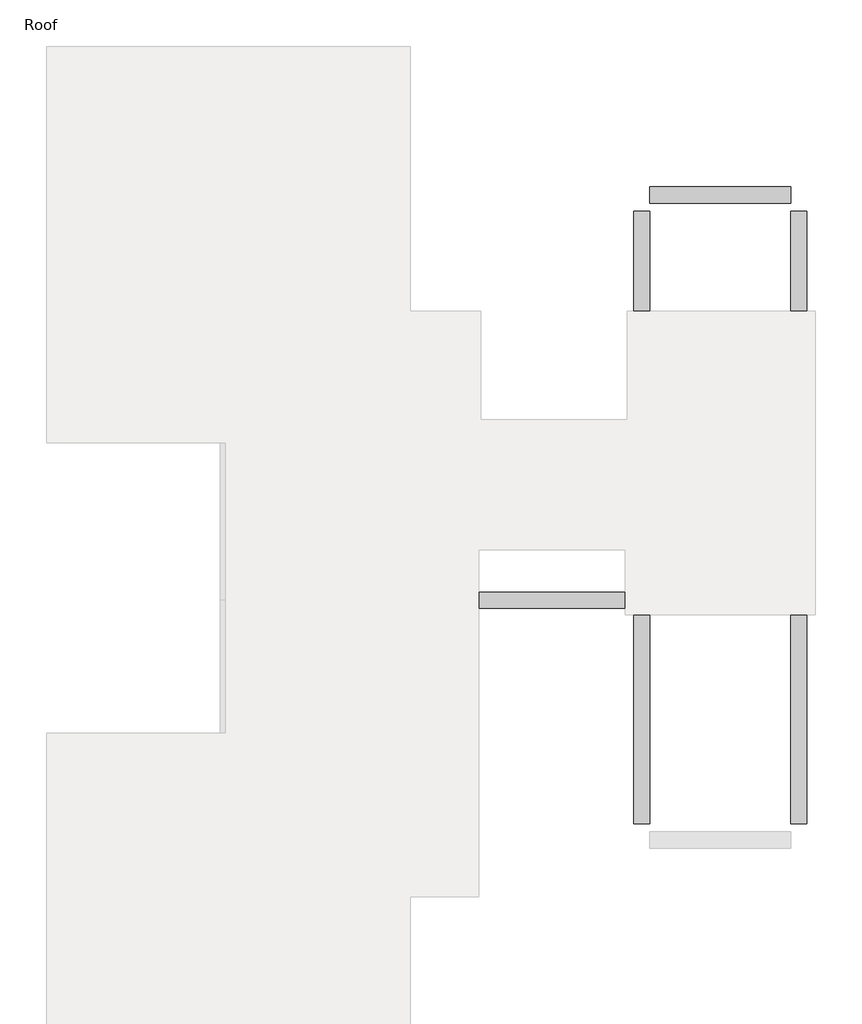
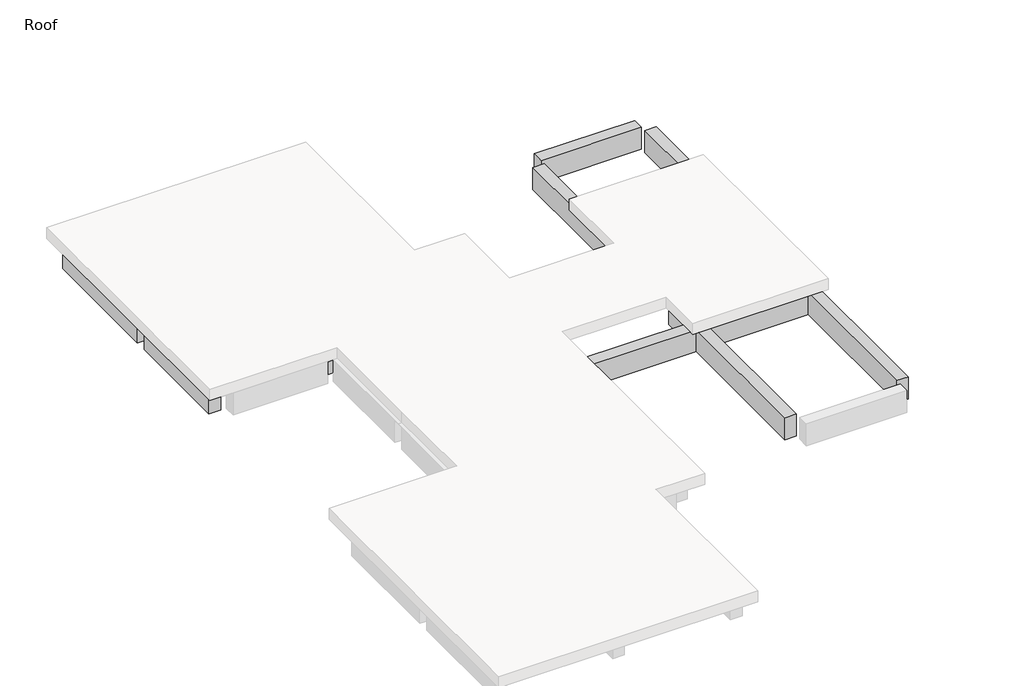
# One storey, part 2 of 2: 26 beams.
"""IFC4 building model written with IfcOpenShell, lengths in millimetres."""

import ifcopenshell
import ifcopenshell.guid

model = None  # the IFC model being written
_history = None  # IfcOwnerHistory: only IFC2X3 demands one
_inside = {}  # id of a spatial element -> (the spatial element, [elements in it])
_under = {}  # id of a project, library or spatial element -> (it, [spatial elements below it])
_declared = {}  # id of a project -> (the project, [libraries it declares])
_typed = {}  # id of a type object -> (the type object, [elements of that type])
_made_of = {}  # id of a material, layer set ... -> (it, [elements and type objects made of it])


def new_model(schema):
    """Start an empty IFC model of exactly this schema.

    Asked for "IFC4X3", IfcOpenShell would pick the latest addendum, in which some entities
    have other attributes; the version numbers below select the first issue.
    IFC2X3 requires an IfcOwnerHistory on every rooted entity: one is made here for all.
    """
    global model, _history
    if schema == "IFC4X3":
        model = ifcopenshell.file(schema_version=(4, 3, 0, 0))
    else:
        model = ifcopenshell.file(schema=schema)
    _inside.clear()
    _under.clear()
    _declared.clear()
    _typed.clear()
    _made_of.clear()
    _history = None
    if model.schema == "IFC2X3":
        org = make("IfcOrganization", Name="unknown")
        user = make(
            "IfcPersonAndOrganization",
            ThePerson=make("IfcPerson", FamilyName="unknown"),
            TheOrganization=org,
        )
        app = make(
            "IfcApplication",
            ApplicationDeveloper=org,
            Version="unknown",
            ApplicationFullName="unknown",
            ApplicationIdentifier="unknown",
        )
        _history = make(
            "IfcOwnerHistory",
            OwningUser=user,
            OwningApplication=app,
            ChangeAction="ADDED",
            CreationDate=0,
        )
    return model


def make(cls, **values):
    """One entity of the class cls with the attributes given. An attribute that is None is left unset."""
    return model.create_entity(
        cls, **{name: value for name, value in values.items() if value is not None}
    )


def rooted(cls, **values):
    """An entity with a GlobalId (a new one), such as an element, a storey or a relation."""
    return make(cls, GlobalId=ifcopenshell.guid.new(), OwnerHistory=_history, **values)


def si_unit(unit_type, name, prefix=None):
    """IfcSIUnit, for example si_unit("LENGTHUNIT", "METRE", prefix="MILLI")."""
    return make("IfcSIUnit", UnitType=unit_type, Prefix=prefix, Name=name)


def assignment(units):
    """IfcUnitAssignment: the units of a project."""
    return None if units is None else make("IfcUnitAssignment", Units=units)


def point(xyz):
    """IfcCartesianPoint."""
    return None if xyz is None else make("IfcCartesianPoint", Coordinates=xyz)


def direction(xyz):
    """IfcDirection."""
    return None if xyz is None else make("IfcDirection", DirectionRatios=xyz)


def frame(location, z_axis=None, x_axis=None):
    """IfcAxis2Placement3D, a coordinate frame: its origin and axes. An axis left out is left unset."""
    return make(
        "IfcAxis2Placement3D",
        Location=point(location),
        Axis=direction(z_axis),
        RefDirection=direction(x_axis),
    )


def origin():
    """The frame at (0, 0, 0) with its axes left unset."""
    return frame((0.0, 0.0, 0.0))


def place(relative_to, where):
    """IfcLocalPlacement: puts the frame where relative to a parent placement (None: the world)."""
    return make(
        "IfcLocalPlacement", PlacementRelTo=relative_to, RelativePlacement=where
    )


def context(
    kind, dimensions, precision=None, world=None, true_north=None, identifier=None
):
    """IfcGeometricRepresentationContext, for example the 3D "Model" context."""
    return make(
        "IfcGeometricRepresentationContext",
        ContextIdentifier=identifier,
        ContextType=kind,
        CoordinateSpaceDimension=dimensions,
        Precision=precision,
        WorldCoordinateSystem=world,
        TrueNorth=true_north,
    )


def project(units=None, contexts=None):
    """IfcProject with its units and contexts."""
    return rooted(
        "IfcProject",
        Name="project",
        RepresentationContexts=contexts,
        UnitsInContext=assignment(units),
    )


def spatial(cls, under=None, at=None, **own):
    """A site, building, storey or space (cls), placed at a placement, below another one or the project."""
    s = rooted(cls, ObjectPlacement=at, **own)
    if under is not None:
        _under.setdefault(under.id(), (under, []))[1].append(s)
    return s


def polyline(points):
    """IfcPolyline through the points."""
    return make("IfcPolyline", Points=[point(p) for p in points])


def outline(outer, holes=None, kind="AREA"):
    """IfcArbitraryClosedProfileDef: a profile drawn as a closed curve; with holes, ...WithVoids."""
    if holes is None:
        return make("IfcArbitraryClosedProfileDef", ProfileType=kind, OuterCurve=outer)
    return make(
        "IfcArbitraryProfileDefWithVoids",
        ProfileType=kind,
        OuterCurve=outer,
        InnerCurves=holes,
    )


def extrude(swept, where, along, depth):
    """IfcExtrudedAreaSolid: the profile swept, set in the frame where, extruded along a direction by depth."""
    return make(
        "IfcExtrudedAreaSolid",
        SweptArea=swept,
        Position=where,
        ExtrudedDirection=direction(along),
        Depth=depth,
    )


def faces_of(points, faces, orient=None, outer=None):
    """IfcFace entities. A face is a list of loops; a loop is a list of indices into points, from 0.

    orient and outer hold one flag for each loop. By default every Orientation is true, the
    first loop of a face is its IfcFaceOuterBound and the others are IfcFaceBound.
    """
    made = []
    for i, loops in enumerate(faces):
        bounds = []
        for j, loop in enumerate(loops):
            is_outer = j == 0 if outer is None else outer[i][j]
            bounds.append(
                make(
                    "IfcFaceOuterBound" if is_outer else "IfcFaceBound",
                    Bound=make("IfcPolyLoop", Polygon=[points[k] for k in loop]),
                    Orientation=True if orient is None else orient[i][j],
                )
            )
        made.append(make("IfcFace", Bounds=bounds))
    return made


def faceted_brep(points, faces, orient=None, outer=None, voids=None):
    """IfcFacetedBrep: a solid bounded by flat faces; with voids (closed shells), ...WithVoids."""
    shared = [point(p) for p in points]
    hull = make("IfcClosedShell", CfsFaces=faces_of(shared, faces, orient, outer))
    if voids is None:
        return make("IfcFacetedBrep", Outer=hull)
    return make(
        "IfcFacetedBrepWithVoids",
        Outer=hull,
        Voids=[
            make(cls, CfsFaces=faces_of(shared, fs, o, b)) for cls, fs, o, b in voids
        ],
    )


def shape(context_of_items, identifier, shape_type, items):
    """IfcShapeRepresentation: the items that make up one representation, for example the "Body"."""
    return make(
        "IfcShapeRepresentation",
        ContextOfItems=context_of_items,
        RepresentationIdentifier=identifier,
        RepresentationType=shape_type,
        Items=items,
    )


def made_of(thing, what):
    """Note that an element or type object is made of a material, layer set ...; save() writes the relation."""
    if what is not None:
        _made_of.setdefault(what.id(), (what, []))[1].append(thing)
    return thing


def element(
    cls,
    number,
    at=None,
    inside=None,
    cuts=None,
    type_object=None,
    material=None,
    context=None,
    identifier="Body",
    shape_type=None,
    held_by="IfcProductDefinitionShape",
    body=None,
    shapes=None,
    **own,
):
    """One element of the class cls, such as IfcWall. Its Tag is "e" and its number.

    at: its placement. inside: the storey or other place that contains it. cuts: it is an
    opening in that element (IfcRelVoidsElement). A single representation is given by context,
    identifier, shape_type and body (its items); several are given by shapes. held_by: the class
    of the entity that holds the representations. save() writes the other relations.
    """
    e = rooted(cls, Tag="e%d" % number, ObjectPlacement=at, **own)
    if body is not None:
        shapes = [shape(context, identifier, shape_type, body)]
    if shapes is not None:
        e.Representation = make(held_by, Representations=shapes)
    if inside is not None:
        _inside.setdefault(inside.id(), (inside, []))[1].append(e)
    if cuts is not None:
        rooted(
            "IfcRelVoidsElement", RelatingBuildingElement=cuts, RelatedOpeningElement=e
        )
    if type_object is not None:
        _typed.setdefault(type_object.id(), (type_object, []))[1].append(e)
    return made_of(e, material)


def aggregate(whole, parts):
    """IfcRelAggregates: a whole, such as a stair, and the parts it consists of."""
    return rooted("IfcRelAggregates", RelatingObject=whole, RelatedObjects=parts)


def save(model, path):
    """Write the relations noted so far, then the file.

    IfcRelAggregates (storeys below a building ...), IfcRelContainedInSpatialStructure (elements
    in a storey), IfcRelDefinesByType, IfcRelAssociatesMaterial and IfcRelDeclares: one each for
    every whole, place, type object, material and project.
    """
    for whole, parts in _under.values():
        aggregate(whole, parts)
    for where, things in _inside.values():
        rooted(
            "IfcRelContainedInSpatialStructure",
            RelatedElements=things,
            RelatingStructure=where,
        )
    for kind, things in _typed.values():
        rooted("IfcRelDefinesByType", RelatedObjects=things, RelatingType=kind)
    for what, things in _made_of.values():
        rooted("IfcRelAssociatesMaterial", RelatedObjects=things, RelatingMaterial=what)
    for by, libraries in _declared.values():
        rooted("IfcRelDeclares", RelatingContext=by, RelatedDefinitions=libraries)
    model.write(path)


model = new_model("IFC4")

# Units and contexts
model_context = context("Model", 3, world=origin())
ifc_project = project(units=[si_unit("LENGTHUNIT", "METRE", prefix="MILLI")], contexts=[model_context])

# Site, building, storey
site = spatial("IfcSite", under=ifc_project)
building = spatial("IfcBuilding", under=site)
storey = spatial("IfcBuildingStorey", under=building, Name="Roof", Elevation=7620.0)

# Beams
placement = place(None, origin())
element("IfcBeam", 1, ObjectType="M_Concrete-Rectangular Beam : 300 x 600mm", at=placement, inside=storey, context=model_context, shape_type="Brep", body=[
    faceted_brep([(-9783.3472303, 14876.016665, 7320.0), (-12831.3472303, 14876.016665, 7320.0), (-12831.3472303, 14726.016665, 7320.0), (-12831.3472303, 14576.016665, 7320.0), (-12681.3472303, 14576.016665, 7320.0), (-9933.3472303, 14576.016665, 7320.0), (-9783.3472303, 14576.016665, 7320.0), (-9783.3472303, 14726.016665, 7320.0), (-12831.3472303, 14576.016665, 7315.2), (-12531.3472303, 14576.016665, 7315.2), (-12531.3472303, 14576.016665, 6720.0), (-10083.3472303, 14576.016665, 6720.0), (-10083.3472303, 14576.016665, 7315.2), (-9783.3472303, 14576.016665, 7315.2), (-12531.3472303, 14876.016665, 6720.0), (-10083.3472303, 14876.016665, 6720.0), (-9783.3472303, 14876.016665, 7315.2), (-10083.3472303, 14876.016665, 7315.2), (-12531.3472303, 14876.016665, 7315.2), (-12831.3472303, 14876.016665, 7315.2), (-12831.3472303, 14726.016665, 7315.2), (-9783.3472303, 14726.016665, 7315.2)], [[[0, 1, 2, 3, 4, 5, 6, 7]], [[6, 5, 4, 3, 8, 9, 10, 11, 12, 13]], [[10, 14, 15, 11]], [[1, 0, 16, 17, 15, 14, 18, 19]], [[9, 18, 14, 10]], [[18, 9, 8, 20, 19]], [[17, 12, 11, 15]], [[12, 17, 16, 21, 13]], [[3, 2, 1, 19, 20, 8]], [[0, 7, 6, 13, 21, 16]]]),
])
element("IfcBeam", 2, ObjectType="M_Concrete-Rectangular Beam : 300 x 600mm", at=placement, inside=storey, context=model_context, shape_type="Brep", body=[
    faceted_brep([(-6735.3472303, 14876.016665, 7320.0), (-9783.3472303, 14876.016665, 7320.0), (-9783.3472303, 14726.016665, 7320.0), (-9633.3472303, 14726.016665, 7320.0), (-9633.3472303, 14576.016665, 7320.0), (-6885.3472303, 14576.016665, 7320.0), (-6735.3472303, 14576.016665, 7320.0), (-6735.3472303, 14726.016665, 7320.0), (-9483.3472303, 14576.016665, 7315.2), (-9483.3472303, 14576.016665, 6720.0), (-7035.3472303, 14576.016665, 6720.0), (-7035.3472303, 14576.016665, 7315.2), (-6735.3472303, 14576.016665, 7315.2), (-9633.3472303, 14576.016665, 7315.2), (-9483.3472303, 14876.016665, 6720.0), (-7035.3472303, 14876.016665, 6720.0), (-6735.3472303, 14876.016665, 7315.2), (-7035.3472303, 14876.016665, 7315.2), (-9483.3472303, 14876.016665, 7315.2), (-9783.3472303, 14876.016665, 7315.2), (-9633.3472303, 14726.016665, 7315.2), (-9783.3472303, 14726.016665, 7315.2), (-6735.3472303, 14726.016665, 7315.2)], [[[0, 1, 2, 3, 4, 5, 6, 7]], [[8, 9, 10, 11, 12, 6, 5, 4, 13]], [[9, 14, 15, 10]], [[1, 0, 16, 17, 15, 14, 18, 19]], [[8, 18, 14, 9]], [[18, 8, 13, 20, 21, 19]], [[17, 11, 10, 15]], [[11, 17, 16, 22, 12]], [[3, 20, 13, 4]], [[1, 19, 21, 2]], [[0, 7, 6, 12, 22, 16]], [[20, 3, 2, 21]]]),
])
element("IfcBeam", 3, ObjectType="M_Concrete-Rectangular Beam : 300 x 600mm", at=placement, inside=storey, context=model_context, shape_type="Brep", body=[
    faceted_brep([(-6585.3472303, 11069.016665, 7320.0), (-6585.3472303, 14726.016665, 7320.0), (-6735.3472303, 14726.016665, 7320.0), (-6735.3472303, 14576.016665, 7320.0), (-6885.3472303, 14576.016665, 7320.0), (-6885.3472303, 11219.016665, 7320.0), (-6885.3472303, 11069.016665, 7320.0), (-6735.3472303, 11069.016665, 7320.0), (-6885.3472303, 14576.016665, 6720.0), (-6885.3472303, 11219.016665, 6720.0), (-6885.3472303, 11219.016665, 7315.2), (-6885.3472303, 11069.016665, 7315.2), (-6585.3472303, 14576.016665, 6720.0), (-6585.3472303, 11219.016665, 6720.0), (-6585.3472303, 11069.016665, 7315.2), (-6585.3472303, 11219.016665, 7315.2), (-6585.3472303, 14576.016665, 7315.2), (-6585.3472303, 14726.016665, 7315.2), (-6735.3472303, 14576.016665, 7315.2), (-6735.3472303, 14726.016665, 7315.2), (-6735.3472303, 11069.016665, 7315.2)], [[[0, 1, 2, 3, 4, 5, 6, 7]], [[6, 5, 4, 8, 9, 10, 11]], [[8, 12, 13, 9]], [[1, 0, 14, 15, 13, 12, 16, 17]], [[4, 3, 18, 16, 12, 8]], [[16, 18, 19, 17]], [[15, 10, 9, 13]], [[10, 15, 14, 20, 11]], [[2, 1, 17, 19]], [[0, 7, 6, 11, 20, 14]], [[3, 2, 19, 18]]]),
])
element("IfcBeam", 4, ObjectType="M_Concrete-Rectangular Beam : 300 x 600mm", at=placement, inside=storey, context=model_context, shape_type="Brep", body=[
    faceted_brep([(-6585.3472303, 9700.016665, 7320.0), (-6585.3472303, 10000.016665, 7320.0), (-6585.3472303, 11069.016665, 7320.0), (-6735.3472303, 11069.016665, 7320.0), (-6735.3472303, 10919.016665, 7320.0), (-6885.3472303, 10919.016665, 7320.0), (-6885.3472303, 9700.016665, 7320.0), (-6885.3472303, 9700.016665, 6720.0), (-6885.3472303, 10919.016665, 6720.0), (-6585.3472303, 9700.016665, 6720.0), (-6585.3472303, 10919.016665, 6720.0), (-6585.3472303, 10000.016665, 6720.0), (-6585.3472303, 10919.016665, 7315.2), (-6585.3472303, 11069.016665, 7315.2), (-6735.3472303, 11069.016665, 7315.2), (-6735.3472303, 10919.016665, 7315.2)], [[[0, 1, 2, 3, 4, 5, 6]], [[7, 6, 5, 8]], [[9, 7, 8, 10, 11]], [[2, 1, 0, 9, 11, 10, 12, 13]], [[2, 13, 14, 3]], [[0, 6, 7, 9]], [[5, 4, 15, 12, 10, 8]], [[13, 12, 15, 14]], [[15, 4, 3, 14]]]),
])
element("IfcBeam", 5, ObjectType="M_Concrete-Rectangular Beam : 300 x 600mm", at=placement, inside=storey, context=model_context, shape_type="Brep", body=[
    faceted_brep([(-6585.3472303, 10000.016665, 7320.0), (-6585.3472303, 9700.016665, 7320.0), (-5666.3472303, 9700.016665, 7320.0), (-5516.3472303, 9700.016665, 7320.0), (-5516.3472303, 9850.016665, 7320.0), (-5516.3472303, 10000.016665, 7320.0), (-6585.3472303, 9700.016665, 6720.0), (-5816.3472303, 9700.016665, 6720.0), (-5816.3472303, 9700.016665, 7315.2), (-5516.3472303, 9700.016665, 7315.2), (-6585.3472303, 10000.016665, 6720.0), (-5816.3472303, 10000.016665, 6720.0), (-5516.3472303, 10000.016665, 7315.2), (-5816.3472303, 10000.016665, 7315.2), (-5516.3472303, 9850.016665, 7315.2)], [[[0, 1, 2, 3, 4, 5]], [[3, 2, 1, 6, 7, 8, 9]], [[6, 10, 11, 7]], [[10, 0, 5, 12, 13, 11]], [[1, 0, 10, 6]], [[13, 8, 7, 11]], [[8, 13, 12, 14, 9]], [[5, 4, 3, 9, 14, 12]]]),
])
element("IfcBeam", 6, ObjectType="M_Concrete-Rectangular Beam : 300 x 600mm", at=placement, inside=storey, context=model_context, shape_type="Brep", body=[
    faceted_brep([(-5366.3472303, 7869.016665, 7320.0), (-5366.3472303, 8019.016665, 7320.0), (-5366.3472303, 9850.016665, 7320.0), (-5516.3472303, 9850.016665, 7320.0), (-5516.3472303, 9700.016665, 7320.0), (-5666.3472303, 9700.016665, 7320.0), (-5666.3472303, 8019.016665, 7320.0), (-5666.3472303, 7869.016665, 7320.0), (-5516.3472303, 7869.016665, 7320.0), (-5666.3472303, 9700.016665, 6720.0), (-5666.3472303, 8019.016665, 6720.0), (-5666.3472303, 8019.016665, 7315.2), (-5666.3472303, 7869.016665, 7315.2), (-5366.3472303, 9700.016665, 6720.0), (-5366.3472303, 8019.016665, 6720.0), (-5366.3472303, 7869.016665, 7315.2), (-5366.3472303, 8019.016665, 7315.2), (-5366.3472303, 9700.016665, 7315.2), (-5366.3472303, 9850.016665, 7315.2), (-5516.3472303, 9700.016665, 7315.2), (-5516.3472303, 9850.016665, 7315.2), (-5516.3472303, 7869.016665, 7315.2)], [[[0, 1, 2, 3, 4, 5, 6, 7, 8]], [[7, 6, 5, 9, 10, 11, 12]], [[9, 13, 14, 10]], [[2, 1, 0, 15, 16, 14, 13, 17, 18]], [[5, 4, 19, 17, 13, 9]], [[17, 19, 20, 18]], [[16, 11, 10, 14]], [[11, 16, 15, 21, 12]], [[3, 2, 18, 20]], [[0, 8, 7, 12, 21, 15]], [[4, 3, 20, 19]]]),
])
element("IfcBeam", 7, ObjectType="M_Concrete-Rectangular Beam : 300 x 600mm", at=placement, inside=storey, context=model_context, shape_type="Brep", body=[
    faceted_brep([(-5366.3472303, 4821.016665, 7320.0), (-5366.3472303, 4971.016665, 7320.0), (-5366.3472303, 7719.016665, 7320.0), (-5366.3472303, 7869.016665, 7320.0), (-5516.3472303, 7869.016665, 7320.0), (-5516.3472303, 7719.016665, 7320.0), (-5666.3472303, 7719.016665, 7320.0), (-5666.3472303, 4971.016665, 7320.0), (-5666.3472303, 4821.016665, 7320.0), (-5516.3472303, 4821.016665, 7320.0), (-5666.3472303, 4971.016665, 6720.0), (-5666.3472303, 4971.016665, 7315.2), (-5666.3472303, 4821.016665, 7315.2), (-5666.3472303, 7719.016665, 6720.0), (-5366.3472303, 4971.016665, 6720.0), (-5366.3472303, 7719.016665, 6720.0), (-5366.3472303, 4821.016665, 7315.2), (-5366.3472303, 4971.016665, 7315.2), (-5366.3472303, 7719.016665, 7315.2), (-5366.3472303, 7869.016665, 7315.2), (-5516.3472303, 7719.016665, 7315.2), (-5516.3472303, 7869.016665, 7315.2), (-5516.3472303, 4821.016665, 7315.2)], [[[0, 1, 2, 3, 4, 5, 6, 7, 8, 9]], [[10, 11, 12, 8, 7, 6, 13]], [[14, 10, 13, 15]], [[3, 2, 1, 0, 16, 17, 14, 15, 18, 19]], [[6, 5, 20, 18, 15, 13]], [[19, 18, 20, 21]], [[17, 11, 10, 14]], [[11, 17, 16, 22, 12]], [[3, 19, 21, 4]], [[0, 9, 8, 12, 22, 16]], [[20, 5, 4, 21]]]),
])
element("IfcBeam", 8, ObjectType="M_Concrete-Rectangular Beam : 300 x 600mm", at=placement, inside=storey, context=model_context, shape_type="Brep", body=[
    faceted_brep([(-9783.3472303, 4671.016665, 7320.0), (-9633.3472303, 4671.016665, 7320.0), (-5666.3472303, 4671.016665, 7320.0), (-5516.3472303, 4671.016665, 7320.0), (-5516.3472303, 4821.016665, 7320.0), (-5666.3472303, 4821.016665, 7320.0), (-5666.3472303, 4971.016665, 7320.0), (-9633.3472303, 4971.016665, 7320.0), (-9783.3472303, 4971.016665, 7320.0), (-9783.3472303, 4821.016665, 7320.0), (-9483.3472303, 4971.016665, 6720.0), (-9483.3472303, 4971.016665, 7315.2), (-9783.3472303, 4971.016665, 7315.2), (-5666.3472303, 4971.016665, 7315.2), (-5816.3472303, 4971.016665, 7315.2), (-5816.3472303, 4971.016665, 6720.0), (-9483.3472303, 4671.016665, 6720.0), (-5816.3472303, 4671.016665, 6720.0), (-9783.3472303, 4671.016665, 7315.2), (-9483.3472303, 4671.016665, 7315.2), (-5816.3472303, 4671.016665, 7315.2), (-5516.3472303, 4671.016665, 7315.2), (-5666.3472303, 4821.016665, 7315.2), (-9783.3472303, 4821.016665, 7315.2), (-5516.3472303, 4821.016665, 7315.2)], [[[0, 1, 2, 3, 4, 5, 6, 7, 8, 9]], [[10, 11, 12, 8, 7, 6, 13, 14, 15]], [[16, 10, 15, 17]], [[3, 2, 1, 0, 18, 19, 16, 17, 20, 21]], [[6, 5, 22, 13]], [[19, 11, 10, 16]], [[11, 19, 18, 23, 12]], [[14, 20, 17, 15]], [[20, 14, 13, 22, 24, 21]], [[0, 9, 8, 12, 23, 18]], [[4, 3, 21, 24]], [[5, 4, 24, 22]]]),
])
element("IfcBeam", 9, ObjectType="M_Concrete-Rectangular Beam : 300 x 600mm", at=placement, inside=storey, context=model_context, shape_type="Brep", body=[
    faceted_brep([(-5666.3472303, 7869.016665, 7320.0), (-5666.3472303, 8019.016665, 7320.0), (-9633.3472303, 8019.016665, 7320.0), (-9783.3472303, 8019.016665, 7320.0), (-9783.3472303, 7869.016665, 7320.0), (-9633.3472303, 7869.016665, 7320.0), (-9633.3472303, 7719.016665, 7320.0), (-5666.3472303, 7719.016665, 7320.0), (-5516.3472303, 7719.016665, 7320.0), (-5516.3472303, 7869.016665, 7320.0), (-9633.3472303, 7719.016665, 7315.2), (-9483.3472303, 7719.016665, 7315.2), (-9483.3472303, 7719.016665, 6720.0), (-5816.3472303, 7719.016665, 6720.0), (-5816.3472303, 7719.016665, 7315.2), (-5516.3472303, 7719.016665, 7315.2), (-9483.3472303, 8019.016665, 6720.0), (-5816.3472303, 8019.016665, 6720.0), (-9483.3472303, 8019.016665, 7315.2), (-9783.3472303, 8019.016665, 7315.2), (-5666.3472303, 8019.016665, 7315.2), (-5816.3472303, 8019.016665, 7315.2), (-5666.3472303, 7869.016665, 7315.2), (-9633.3472303, 7869.016665, 7315.2), (-9783.3472303, 7869.016665, 7315.2), (-5516.3472303, 7869.016665, 7315.2)], [[[0, 1, 2, 3, 4, 5, 6, 7, 8, 9]], [[6, 10, 11, 12, 13, 14, 15, 8, 7]], [[12, 16, 17, 13]], [[16, 18, 19, 3, 2, 1, 20, 21, 17]], [[1, 0, 22, 20]], [[6, 5, 23, 10]], [[11, 18, 16, 12]], [[18, 11, 10, 23, 24, 19]], [[21, 14, 13, 17]], [[14, 21, 20, 22, 25, 15]], [[4, 3, 19, 24]], [[9, 8, 15, 25]], [[0, 9, 25, 22]], [[5, 4, 24, 23]]]),
])
element("IfcBeam", 10, ObjectType="M_Concrete-Rectangular Beam : 300 x 600mm", at=placement, inside=storey, context=model_context, shape_type="Brep", body=[
    faceted_brep([(-9933.3472303, 11069.016665, 7320.0), (-9933.3472303, 10919.016665, 7320.0), (-9933.3472303, 8019.016665, 7320.0), (-9933.3472303, 7869.016665, 7320.0), (-9783.3472303, 7869.016665, 7320.0), (-9783.3472303, 8019.016665, 7320.0), (-9633.3472303, 8019.016665, 7320.0), (-9633.3472303, 10919.016665, 7320.0), (-9633.3472303, 11069.016665, 7320.0), (-9783.3472303, 11069.016665, 7320.0), (-9633.3472303, 10919.016665, 6720.0), (-9633.3472303, 10919.016665, 7315.2), (-9633.3472303, 11069.016665, 7315.2), (-9633.3472303, 8019.016665, 6720.0), (-9933.3472303, 10919.016665, 6720.0), (-9933.3472303, 8019.016665, 6720.0), (-9933.3472303, 11069.016665, 7315.2), (-9933.3472303, 10919.016665, 7315.2), (-9933.3472303, 8019.016665, 7315.2), (-9933.3472303, 7869.016665, 7315.2), (-9783.3472303, 8019.016665, 7315.2), (-9783.3472303, 11069.016665, 7315.2), (-9783.3472303, 7869.016665, 7315.2)], [[[0, 1, 2, 3, 4, 5, 6, 7, 8, 9]], [[10, 11, 12, 8, 7, 6, 13]], [[14, 10, 13, 15]], [[3, 2, 1, 0, 16, 17, 14, 15, 18, 19]], [[6, 5, 20, 18, 15, 13]], [[17, 11, 10, 14]], [[11, 17, 16, 21, 12]], [[18, 20, 22, 19]], [[0, 9, 8, 12, 21, 16]], [[4, 3, 19, 22]], [[5, 4, 22, 20]]]),
])
element("IfcBeam", 11, ObjectType="M_Concrete-Rectangular Beam : 300 x 600mm", at=placement, inside=storey, context=model_context, shape_type="Brep", body=[
    faceted_brep([(-6885.3472303, 11069.016665, 7320.0), (-6885.3472303, 11219.016665, 7320.0), (-9633.3472303, 11219.016665, 7320.0), (-9783.3472303, 11219.016665, 7320.0), (-9783.3472303, 11069.016665, 7320.0), (-9633.3472303, 11069.016665, 7320.0), (-9633.3472303, 10919.016665, 7320.0), (-6885.3472303, 10919.016665, 7320.0), (-6735.3472303, 10919.016665, 7320.0), (-6735.3472303, 11069.016665, 7320.0), (-9633.3472303, 10919.016665, 7315.2), (-9483.3472303, 10919.016665, 7315.2), (-9483.3472303, 10919.016665, 6720.0), (-7035.3472303, 10919.016665, 6720.0), (-7035.3472303, 10919.016665, 7315.2), (-6735.3472303, 10919.016665, 7315.2), (-9483.3472303, 11219.016665, 6720.0), (-7035.3472303, 11219.016665, 6720.0), (-9483.3472303, 11219.016665, 7315.2), (-9783.3472303, 11219.016665, 7315.2), (-6885.3472303, 11219.016665, 7315.2), (-7035.3472303, 11219.016665, 7315.2), (-6885.3472303, 11069.016665, 7315.2), (-9633.3472303, 11069.016665, 7315.2), (-9783.3472303, 11069.016665, 7315.2), (-6735.3472303, 11069.016665, 7315.2)], [[[0, 1, 2, 3, 4, 5, 6, 7, 8, 9]], [[6, 10, 11, 12, 13, 14, 15, 8, 7]], [[12, 16, 17, 13]], [[16, 18, 19, 3, 2, 1, 20, 21, 17]], [[1, 0, 22, 20]], [[6, 5, 23, 10]], [[11, 18, 16, 12]], [[18, 11, 10, 23, 24, 19]], [[21, 14, 13, 17]], [[14, 21, 20, 22, 25, 15]], [[4, 3, 19, 24]], [[9, 8, 15, 25]], [[0, 9, 25, 22]], [[5, 4, 24, 23]]]),
])
element("IfcBeam", 12, ObjectType="M_Concrete-Rectangular Beam : 300 x 600mm", at=placement, inside=storey, context=model_context, shape_type="Brep", body=[
    faceted_brep([(-9783.3472303, 14576.016665, 7320.0), (-9933.3472303, 14576.016665, 7320.0), (-9933.3472303, 11219.016665, 7320.0), (-9933.3472303, 11069.016665, 7320.0), (-9783.3472303, 11069.016665, 7320.0), (-9783.3472303, 11219.016665, 7320.0), (-9633.3472303, 11219.016665, 7320.0), (-9633.3472303, 14576.016665, 7320.0), (-9633.3472303, 14726.016665, 7320.0), (-9783.3472303, 14726.016665, 7320.0), (-9633.3472303, 11219.016665, 6720.0), (-9633.3472303, 14576.016665, 6720.0), (-9633.3472303, 14576.016665, 7315.2), (-9633.3472303, 14726.016665, 7315.2), (-9933.3472303, 11219.016665, 6720.0), (-9933.3472303, 14576.016665, 6720.0), (-9933.3472303, 11219.016665, 7315.2), (-9933.3472303, 11069.016665, 7315.2), (-9783.3472303, 14576.016665, 7315.2), (-9783.3472303, 11219.016665, 7315.2), (-9783.3472303, 14726.016665, 7315.2), (-9783.3472303, 11069.016665, 7315.2)], [[[0, 1, 2, 3, 4, 5, 6, 7, 8, 9]], [[8, 7, 6, 10, 11, 12, 13]], [[10, 14, 15, 11]], [[3, 2, 1, 15, 14, 16, 17]], [[1, 0, 18, 12, 11, 15]], [[6, 5, 19, 16, 14, 10]], [[12, 18, 20, 13]], [[16, 19, 21, 17]], [[9, 8, 13, 20]], [[4, 3, 17, 21]], [[0, 9, 20, 18]], [[5, 4, 21, 19]]]),
])
element("IfcBeam", 13, ObjectType="M_Concrete-Rectangular Beam : 300 x 600mm", at=placement, inside=storey, context=model_context, shape_type="Brep", body=[
    faceted_brep([(-12981.3472303, 14726.016665, 7320.0), (-12981.3472303, 11069.016665, 7320.0), (-12831.3472303, 11069.016665, 7320.0), (-12681.3472303, 11069.016665, 7320.0), (-12681.3472303, 11219.016665, 7320.0), (-12681.3472303, 14576.016665, 7320.0), (-12831.3472303, 14576.016665, 7320.0), (-12831.3472303, 14726.016665, 7320.0), (-12981.3472303, 14726.016665, 7315.2), (-12981.3472303, 14576.016665, 7315.2), (-12981.3472303, 14576.016665, 6720.0), (-12981.3472303, 11219.016665, 6720.0), (-12981.3472303, 11219.016665, 7315.2), (-12981.3472303, 11069.016665, 7315.2), (-12681.3472303, 14576.016665, 6720.0), (-12681.3472303, 11219.016665, 6720.0), (-12681.3472303, 11069.016665, 7315.2), (-12681.3472303, 11219.016665, 7315.2), (-12831.3472303, 14576.016665, 7315.2), (-12831.3472303, 14726.016665, 7315.2), (-12831.3472303, 11069.016665, 7315.2)], [[[0, 1, 2, 3, 4, 5, 6, 7]], [[1, 0, 8, 9, 10, 11, 12, 13]], [[10, 14, 15, 11]], [[5, 4, 3, 16, 17, 15, 14]], [[6, 5, 14, 10, 9, 18]], [[18, 9, 8, 19]], [[17, 12, 11, 15]], [[12, 17, 16, 20, 13]], [[0, 7, 19, 8]], [[3, 2, 1, 13, 20, 16]], [[7, 6, 18, 19]]]),
])
element("IfcBeam", 14, ObjectType="M_Concrete-Rectangular Beam : 300 x 600mm", at=placement, inside=storey, context=model_context, shape_type="Brep", body=[
    faceted_brep([(-12681.3472303, 11219.016665, 7320.0), (-12681.3472303, 11069.016665, 7320.0), (-12831.3472303, 11069.016665, 7320.0), (-12831.3472303, 10919.016665, 7320.0), (-12681.3472303, 10919.016665, 7320.0), (-9933.3472303, 10919.016665, 7320.0), (-9933.3472303, 11069.016665, 7320.0), (-9933.3472303, 11219.016665, 7320.0), (-12531.3472303, 10919.016665, 7315.2), (-12531.3472303, 10919.016665, 6720.0), (-10083.3472303, 10919.016665, 6720.0), (-10083.3472303, 10919.016665, 7315.2), (-9933.3472303, 10919.016665, 7315.2), (-12831.3472303, 10919.016665, 7315.2), (-12531.3472303, 11219.016665, 6720.0), (-10083.3472303, 11219.016665, 6720.0), (-12681.3472303, 11219.016665, 7315.2), (-9933.3472303, 11219.016665, 7315.2), (-10083.3472303, 11219.016665, 7315.2), (-12531.3472303, 11219.016665, 7315.2), (-9933.3472303, 11069.016665, 7315.2), (-12681.3472303, 11069.016665, 7315.2), (-12831.3472303, 11069.016665, 7315.2)], [[[0, 1, 2, 3, 4, 5, 6, 7]], [[8, 9, 10, 11, 12, 5, 4, 3, 13]], [[9, 14, 15, 10]], [[16, 0, 7, 17, 18, 15, 14, 19]], [[7, 6, 5, 12, 20, 17]], [[1, 0, 16, 21]], [[8, 19, 14, 9]], [[19, 8, 13, 22, 21, 16]], [[18, 11, 10, 15]], [[11, 18, 17, 20, 12]], [[3, 2, 22, 13]], [[2, 1, 21, 22]]]),
])
element("IfcBeam", 15, ObjectType="M_Concrete-Rectangular Beam : 300 x 600mm", at=placement, inside=storey, context=model_context, shape_type="Brep", body=[
    faceted_brep([(-12981.3472303, 11069.016665, 7320.0), (-12981.3472303, 7869.016665, 7320.0), (-12831.3472303, 7869.016665, 7320.0), (-12681.3472303, 7869.016665, 7320.0), (-12681.3472303, 8019.016665, 7320.0), (-12681.3472303, 10919.016665, 7320.0), (-12831.3472303, 10919.016665, 7320.0), (-12831.3472303, 11069.016665, 7320.0), (-12981.3472303, 11069.016665, 7315.2), (-12981.3472303, 10919.016665, 7315.2), (-12981.3472303, 10919.016665, 6720.0), (-12981.3472303, 8019.016665, 6720.0), (-12981.3472303, 8019.016665, 7315.2), (-12981.3472303, 7869.016665, 7315.2), (-12681.3472303, 10919.016665, 6720.0), (-12681.3472303, 8019.016665, 6720.0), (-12681.3472303, 7869.016665, 7315.2), (-12681.3472303, 8019.016665, 7315.2), (-12831.3472303, 10919.016665, 7315.2), (-12831.3472303, 11069.016665, 7315.2), (-12831.3472303, 7869.016665, 7315.2)], [[[0, 1, 2, 3, 4, 5, 6, 7]], [[1, 0, 8, 9, 10, 11, 12, 13]], [[10, 14, 15, 11]], [[5, 4, 3, 16, 17, 15, 14]], [[6, 5, 14, 10, 9, 18]], [[18, 9, 8, 19]], [[17, 12, 11, 15]], [[12, 17, 16, 20, 13]], [[0, 7, 19, 8]], [[3, 2, 1, 13, 20, 16]], [[7, 6, 18, 19]]]),
])
element("IfcBeam", 16, ObjectType="M_Concrete-Rectangular Beam : 300 x 600mm", at=placement, inside=storey, context=model_context, shape_type="Brep", body=[
    faceted_brep([(-2313.3472303, 8019.016665, 7320.0), (-5366.3472303, 8019.016665, 7320.0), (-5366.3472303, 7869.016665, 7320.0), (-5366.3472303, 7719.016665, 7320.0), (-2313.3472303, 7719.016665, 7320.0), (-5366.3472303, 7719.016665, 7315.2), (-5216.3472303, 7719.016665, 7315.2), (-5216.3472303, 7719.016665, 6720.0), (-2313.3472303, 7719.016665, 6720.0), (-2313.3472303, 8019.016665, 6720.0), (-5216.3472303, 8019.016665, 6720.0), (-5216.3472303, 8019.016665, 7315.2), (-5366.3472303, 8019.016665, 7315.2), (-5366.3472303, 7869.016665, 7315.2)], [[[0, 1, 2, 3, 4]], [[4, 3, 5, 6, 7, 8]], [[9, 8, 7, 10]], [[1, 0, 9, 10, 11, 12]], [[0, 4, 8, 9]], [[3, 2, 1, 12, 13, 5]], [[6, 11, 10, 7]], [[11, 6, 5, 13, 12]]]),
])
element("IfcBeam", 17, ObjectType="M_Concrete-Rectangular Beam : 300 x 600mm", at=placement, inside=storey, context=model_context, shape_type="Brep", body=[
    faceted_brep([(-5366.3472303, 4971.016665, 7320.0), (-5366.3472303, 4821.016665, 7320.0), (-5366.3472303, 4671.016665, 7320.0), (-2313.3472303, 4671.016665, 7320.0), (-2313.3472303, 4971.016665, 7320.0), (-5216.3472303, 4671.016665, 7315.2), (-5216.3472303, 4671.016665, 6720.0), (-2313.3472303, 4671.016665, 6720.0), (-5366.3472303, 4671.016665, 7315.2), (-5216.3472303, 4971.016665, 6720.0), (-2313.3472303, 4971.016665, 6720.0), (-5366.3472303, 4971.016665, 7315.2), (-5216.3472303, 4971.016665, 7315.2), (-5366.3472303, 4821.016665, 7315.2)], [[[0, 1, 2, 3, 4]], [[5, 6, 7, 3, 2, 8]], [[6, 9, 10, 7]], [[11, 0, 4, 10, 9, 12]], [[0, 11, 13, 8, 2, 1]], [[5, 12, 9, 6]], [[12, 5, 8, 13, 11]], [[4, 3, 7, 10]]]),
])
element("IfcBeam", 18, ObjectType="M_Concrete-Rectangular Beam : 300 x 600mm", at=placement, inside=storey, context=model_context, shape_type="SweptSolid", body=[
    extrude(outline(polyline([(-2013.3472303, 7719.016665), (-2013.3472303, 8019.016665), (582.6527697, 8019.016665), (582.6527697, 7719.016665), (-2013.3472303, 7719.016665)])), frame((0.0, 0.0, 6720.0), z_axis=(0.0, 0.0, 1.0), x_axis=(1.0, 0.0, 0.0)), (0.0, 0.0, 1.0), 600.0),
])
element("IfcBeam", 19, ObjectType="M_Concrete-Rectangular Beam : 300 x 600mm", at=placement, inside=storey, context=model_context, shape_type="SweptSolid", body=[
    extrude(outline(polyline([(-2013.3472303, 4671.016665), (-2013.3472303, 4971.016665), (582.6527697, 4971.016665), (582.6527697, 4671.016665), (-2013.3472303, 4671.016665)])), frame((0.0, 0.0, 6720.0), z_axis=(0.0, 0.0, 1.0), x_axis=(1.0, 0.0, 0.0)), (0.0, 0.0, 1.0), 600.0),
])
element("IfcBeam", 20, ObjectType="M_Concrete-Rectangular Beam : 300 x 600mm", at=placement, inside=storey, context=model_context, shape_type="Brep", body=[
    faceted_brep([(-2313.3472303, 701.016665, 7320.0), (-2013.3472303, 701.016665, 7320.0), (-2013.3472303, 4671.016665, 7320.0), (-2013.3472303, 4971.016665, 7320.0), (-2013.3472303, 5890.016665, 7320.0), (-2313.3472303, 5890.016665, 7320.0), (-2313.3472303, 4971.016665, 7320.0), (-2313.3472303, 4671.016665, 7320.0), (-2013.3472303, 701.016665, 6720.0), (-2013.3472303, 4671.016665, 6720.0), (-2013.3472303, 4971.016665, 6720.0), (-2013.3472303, 5890.016665, 6720.0), (-2313.3472303, 701.016665, 6720.0), (-2313.3472303, 4671.016665, 6720.0), (-2313.3472303, 4971.016665, 6720.0), (-2313.3472303, 5890.016665, 6720.0)], [[[0, 1, 2, 3, 4, 5, 6, 7]], [[1, 8, 9, 10, 11, 4, 3, 2]], [[8, 12, 13, 14, 15, 11, 10, 9]], [[12, 0, 7, 6, 5, 15, 14, 13]], [[1, 0, 12, 8]], [[5, 4, 11, 15]]]),
])
element("IfcBeam", 21, ObjectType="M_Concrete-Rectangular Beam : 300 x 600mm", at=placement, inside=storey, context=model_context, shape_type="SweptSolid", body=[
    extrude(outline(polyline([(-2313.3472303, 7569.016665), (-2013.3472303, 7569.016665), (-2013.3472303, 6190.016665), (-2313.3472303, 6190.016665), (-2313.3472303, 7569.016665)])), frame((0.0, 0.0, 7020.0), z_axis=(0.0, 0.0, 1.0), x_axis=(1.0, 0.0, 0.0)), (0.0, 0.0, 1.0), 300.0),
])
element("IfcBeam", 22, ObjectType="M_Concrete-Rectangular Beam : 300 x 600mm", at=placement, inside=storey, context=model_context, shape_type="SweptSolid", body=[
    extrude(outline(polyline([(-2013.3472303, 8169.016665), (-2313.3472303, 8169.016665), (-2313.3472303, 11988.016665), (-2013.3472303, 11988.016665), (-2013.3472303, 8169.016665)])), frame((0.0, 0.0, 6720.0), z_axis=(0.0, 0.0, 1.0), x_axis=(1.0, 0.0, 0.0)), (0.0, 0.0, 1.0), 600.0),
])
element("IfcBeam", 23, ObjectType="M_Concrete-Rectangular Beam : 300 x 600mm", at=placement, inside=storey, context=model_context, shape_type="SweptSolid", body=[
    extrude(outline(polyline([(-2013.3472303, 12138.016665), (-2013.3472303, 12438.016665), (582.6527697, 12438.016665), (582.6527697, 12138.016665), (-2013.3472303, 12138.016665)])), frame((0.0, 0.0, 6720.0), z_axis=(0.0, 0.0, 1.0), x_axis=(1.0, 0.0, 0.0)), (0.0, 0.0, 1.0), 600.0),
])
element("IfcBeam", 24, ObjectType="M_Concrete-Rectangular Beam : 300 x 600mm", at=placement, inside=storey, context=model_context, shape_type="SweptSolid", body=[
    extrude(outline(polyline([(882.6527697, 8169.016665), (582.6527697, 8169.016665), (582.6527697, 11988.016665), (882.6527697, 11988.016665), (882.6527697, 8169.016665)])), frame((0.0, 0.0, 6720.0), z_axis=(0.0, 0.0, 1.0), x_axis=(1.0, 0.0, 0.0)), (0.0, 0.0, 1.0), 600.0),
])
element("IfcBeam", 25, ObjectType="M_Concrete-Rectangular Beam : 300 x 600mm", at=placement, inside=storey, context=model_context, shape_type="SweptSolid", body=[
    extrude(outline(polyline([(582.6527697, 7569.016665), (882.6527697, 7569.016665), (882.6527697, 6190.016665), (582.6527697, 6190.016665), (582.6527697, 7569.016665)])), frame((0.0, 0.0, 7020.0), z_axis=(0.0, 0.0, 1.0), x_axis=(1.0, 0.0, 0.0)), (0.0, 0.0, 1.0), 300.0),
])
element("IfcBeam", 26, ObjectType="M_Concrete-Rectangular Beam : 300 x 600mm", at=placement, inside=storey, context=model_context, shape_type="Brep", body=[
    faceted_brep([(582.6527697, 701.016665, 7320.0), (882.6527697, 701.016665, 7320.0), (882.6527697, 5890.016665, 7320.0), (582.6527697, 5890.016665, 7320.0), (582.6527697, 4971.016665, 7320.0), (582.6527697, 4671.016665, 7320.0), (582.6527697, 701.016665, 6720.0), (582.6527697, 5890.016665, 6720.0), (582.6527697, 4971.016665, 6720.0), (582.6527697, 4671.016665, 6720.0), (882.6527697, 701.016665, 6720.0), (882.6527697, 5890.016665, 6720.0)], [[[0, 1, 2, 3, 4, 5]], [[6, 0, 5, 4, 3, 7, 8, 9]], [[10, 6, 9, 8, 7, 11]], [[1, 10, 11, 2]], [[1, 0, 6, 10]], [[3, 2, 11, 7]]]),
])

save(model, "model.ifc")
